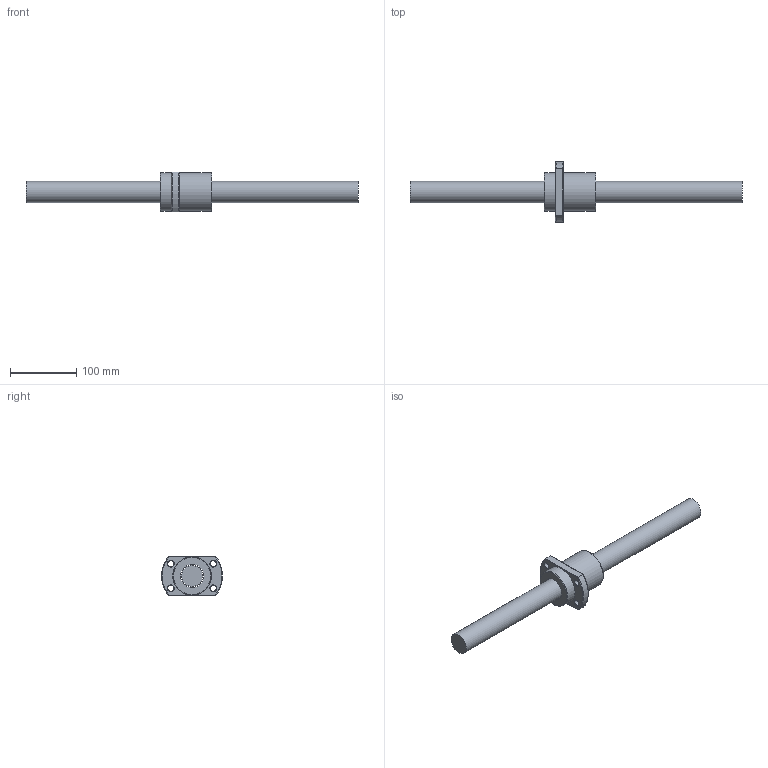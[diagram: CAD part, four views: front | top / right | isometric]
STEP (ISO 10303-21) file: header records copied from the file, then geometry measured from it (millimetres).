
FILE_DESCRIPTION (( 'STEP AP203' ), '1' );
FILE_NAME ('SFY03232-3.6.step', '2024-05-21T08:57:09', ( '' ), ( '' ), 'SwSTEP 2.0', 'SolidWorks 2022', '' );
FILE_SCHEMA (( 'CONFIG_CONTROL_DESIGN' ));
Length unit declared in the file: millimetre
Products named in the file (1): SFY03232-3.6
Bounding box: 500 x 91.86 x 60 mm (x, y, z)
Volume: 559684.2 mm3; surface area: 84760.6 mm2
Topology: 2 solids, 2 shells, 51 faces, 124 edges, 79 vertices
Faces by surface type: cylinder 18, plane 13, cone 9, torus 6, bspline 5
Full cylindrical faces by diameter (mm): 4 x1, 5 x6, 9 x4, 32 x1, 34.8 x1, 58 x2
Entity records: 3003 total; most frequent: CARTESIAN_POINT 2042, DIRECTION 170, ORIENTED_EDGE 156, EDGE_LOOP 80, EDGE_CURVE 78, AXIS2_PLACEMENT_3D 77, VERTEX_POINT 62, FACE_OUTER_BOUND 57
